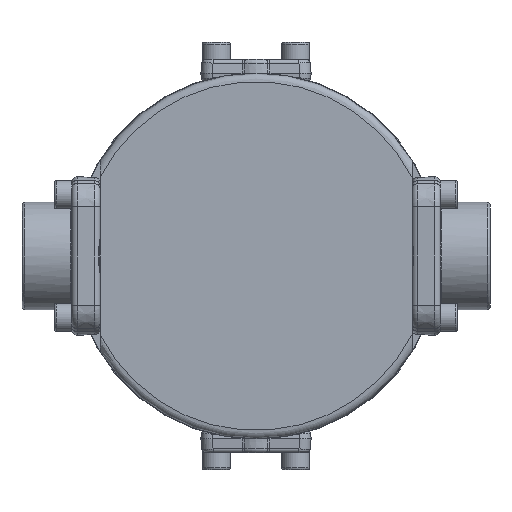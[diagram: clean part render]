
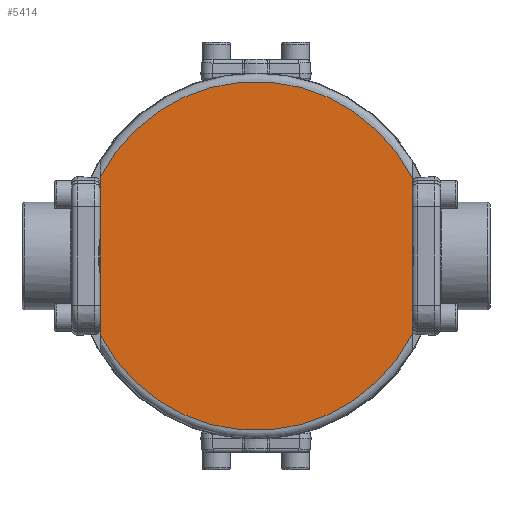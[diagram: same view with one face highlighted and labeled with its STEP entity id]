
A CAD part, front view. The second image highlights one B-rep face of the part: STEP entity #5414.
In plain terms, the highlighted planar face has unit normal (0, -1, 0).
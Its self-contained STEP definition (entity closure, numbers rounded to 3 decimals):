
#451=PLANE('',#6021);
#675=LINE('',#9059,#915);
#698=LINE('',#9195,#938);
#915=VECTOR('',#6735,10.);
#938=VECTOR('',#6830,10.);
#1303=FACE_OUTER_BOUND('',#1668,.T.);
#1668=EDGE_LOOP('',(#4047,#4048,#4049,#4050));
#2086=CIRCLE('',#6020,61.5);
#2087=CIRCLE('',#6022,61.5);
#2433=VERTEX_POINT('',#9042);
#2435=VERTEX_POINT('',#9058);
#2466=VERTEX_POINT('',#9159);
#2470=VERTEX_POINT('',#9180);
#2957=EDGE_CURVE('',#2435,#2433,#675,.T.);
#3005=EDGE_CURVE('',#2466,#2470,#698,.T.);
#3096=EDGE_CURVE('',#2466,#2433,#2086,.T.);
#3097=EDGE_CURVE('',#2435,#2470,#2087,.T.);
#4047=ORIENTED_EDGE('',*,*,#3096,.F.);
#4048=ORIENTED_EDGE('',*,*,#3005,.T.);
#4049=ORIENTED_EDGE('',*,*,#3097,.F.);
#4050=ORIENTED_EDGE('',*,*,#2957,.T.);
#5414=ADVANCED_FACE('',(#1303),#451,.T.);
#6020=AXIS2_PLACEMENT_3D('',#9372,#7044,#7045);
#6021=AXIS2_PLACEMENT_3D('',#9373,#7046,#7047);
#6022=AXIS2_PLACEMENT_3D('',#9374,#7048,#7049);
#6735=DIRECTION('',(0.,0.,-1.));
#6830=DIRECTION('',(0.,0.,1.));
#7044=DIRECTION('center_axis',(0.,1.,0.));
#7045=DIRECTION('ref_axis',(0.,0.,
-1.));
#7046=DIRECTION('center_axis',(0.,-1.,0.));
#7047=DIRECTION('ref_axis',(0.,0.,-1.));
#7048=DIRECTION('center_axis',(0.,1.,0.));
#7049=DIRECTION('ref_axis',(0.,0.,
1.));
#9042=CARTESIAN_POINT('',(-55.,0.,-27.518));
#9058=CARTESIAN_POINT('',(-55.,0.,27.518));
#9059=CARTESIAN_POINT('',(-55.,0.,0.));
#9159=CARTESIAN_POINT('',(55.,0.,-27.518));
#9180=CARTESIAN_POINT('',(55.,0.,27.518));
#9195=CARTESIAN_POINT('',(55.,0.,0.));
#9372=CARTESIAN_POINT('Origin',(0.,0.,0.));
#9373=CARTESIAN_POINT('Origin',(0.,0.,0.));
#9374=CARTESIAN_POINT('Origin',(0.,0.,0.));
